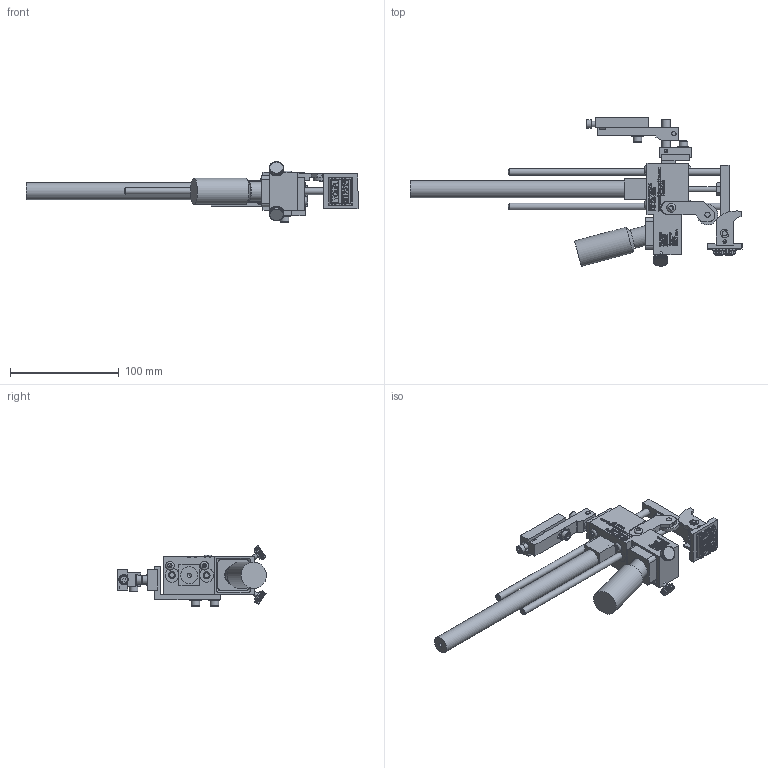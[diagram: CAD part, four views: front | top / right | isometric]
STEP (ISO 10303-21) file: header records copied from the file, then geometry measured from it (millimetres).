
FILE_DESCRIPTION((''),'2;1');
FILE_NAME('C:\Documents and Settings\Ron\My Documents\Inventor\Sprinter Drawing\Machines in Inventor\Model 88\Type\Ext Str\E4\Brkt\90\Model 88 ES 4 90 deg w brkt mod 2012.stp','2012-03-16T14:04:49',('Ron'),(''),'Autodesk Inventor 2011','Autodesk Inventor 2011','');
FILE_SCHEMA(('AUTOMOTIVE_DESIGN { 1 0 10303 214 1 1 1 1 }'));
Length unit declared in the file: inch
Products named in the file (44): Model 88  ES 4  90 deg w brkt mod 2012; 88 Frame Body; 66 Linear Bearing; Hexagon Socket Button Head Cap Screw - Inch 8 - 32 x 1/4; Hexagon Socket Head Cap Screw - Inch No. 8 - 32 UNC - 1 1/2; 10 Ink Resevior Lock Screw; INK RESERVOIR ASSY; 88 RESERVOIR; 88 Ink Pad; 66 INK BOTTLE; 88 STD Wheel Bractet Assy (prototype); 44 Wheel Retainer; 44 Cam Wheel; 88 Wheel Bracket Arm (prototype); Hexagon Socket Set Screw - Flat Point - Inch 4-48 UNF x 0.19; 8-32x0.25 Hexagon Socket Button Head Cap Screw ANSI/ASME B18.3; E4 90 deg; 88 Rod Carrier 90 deg ES 4; 88 Rod Carrier; Type A - Hexagon Socket Set Screw - Cup Point - Inch 8-32 UNC x 0.32; 66 PIVOT SHAFT; 66 PIVOT SHAFT LOCKING RING; 23 66 invert block; AS 1112 (4)  - Metric M6; 66 Spring; 19 Rod Carrier Set Screws; 88 CLIP FOR MODELS; 88--CLIP plate; Hexagon Socket Set Screw - Flat Point - Inch 6-32 UNC x 0.45; 88 baselock (model sized); 88 baselock STAMP; E4; Model 88 RPB; rpb4; rpb3; rpb-1; rpb2; No. 10-24x0.88 Hexagon socket head cap screw ANSI/ASME B18.3; Type B - Plain Washer (Inch) No. 10 - narrow - Type B; 66 Machine Mounting Pivot Bracket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
Assembly tree (59 placements, depth 4):
  Model 88  ES 4  90 deg w brkt mod 2012
    88 Frame Body
    66 Linear Bearing  x2
    Hexagon Socket Button Head Cap Screw - Inch 8 - 32 x 1/4  x4
    Hexagon Socket Head Cap Screw - Inch No. 8 - 32 UNC - 1 1/2  x2
    10 Ink Resevior Lock Screw  x2
    INK RESERVOIR ASSY
      88 RESERVOIR
      88 Ink Pad
      66 INK BOTTLE
    88 STD Wheel Bractet Assy (prototype)
      44 Wheel Retainer
      44 Cam Wheel
      88 Wheel Bracket Arm (prototype)
      Hexagon Socket Set Screw - Flat Point - Inch 4-48 UNF x 0.19
    8-32x0.25 Hexagon Socket Button Head Cap Screw ANSI/ASME B18.3
    E4 90 deg
    88 Rod Carrier 90 deg ES 4
      88 Rod Carrier
      Type A - Hexagon Socket Set Screw - Cup Point - Inch 8-32 UNC x 0.32
      66 PIVOT SHAFT
      66 PIVOT SHAFT LOCKING RING  x2
      23 66 invert block
      AS 1112 (4)  - Metric M6
      66 Spring
      19 Rod Carrier Set Screws  x2
      88 CLIP FOR MODELS
        88--CLIP plate
        Hexagon Socket Set Screw - Flat Point - Inch 6-32 UNC x 0.45
        88 baselock (model sized)
        88 baselock STAMP
      E4  x2
    Model 88 RPB
      rpb4
      rpb3
      rpb-1
      rpb2
      No. 10-24x0.88 Hexagon socket head cap screw ANSI/ASME B18.3  x5
      Type B - Plain Washer (Inch) No. 10 - narrow - Type B  x4
      66 Machine Mounting Pivot Bracket
      Pin - Hardened Ground Machine Dowel (Inch) 1/8 x 3/4
      Pin - Hardened Ground Machine Dowel (Inch) 1/8 x 3/8
    Hexagon Socket Set Screw - Flat Point - Inch 8-32 UNC x 0.32
    10-32 PORTS DECAL
Bounding box: 304.94 x 136.58 x 55.4 mm (x, y, z)
Volume: 223993.3 mm3; surface area: 105324.9 mm2
Topology: 427 solids, 427 shells, 6414 faces, 15723 edges, 9738 vertices
Faces by surface type: plane 4465, bspline 1294, cylinder 561, cone 71, torus 23
Full cylindrical faces by diameter (mm): 1.143 x1, 2.261 x1, 2.54 x2, 2.642 x1, 2.845 x1, 3.175 x4, 3.2 x1, 3.302 x14, 3.505 x1, 3.556 x1, 3.683 x2, 3.962 x10, 4.064 x2, 4.166 x11, 4.547 x2, 4.699 x3, 4.75 x4, 4.775 x2, 4.826 x8, 4.864 x2, 4.917 x1, 5.055 x1, 5.156 x7, 5.359 x1, 5.556 x1, 6.223 x2, 6.325 x4, 6.35 x5, 6.426 x1, 6.604 x1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
Entity records: 152785 total; most frequent: CARTESIAN_POINT 45409, ORIENTED_EDGE 23890, DIRECTION 17288, EDGE_CURVE 11945, VECTOR 8532, LINE 8532, VERTEX_POINT 7675, EDGE_LOOP 5356
